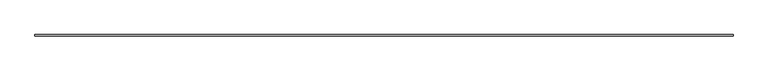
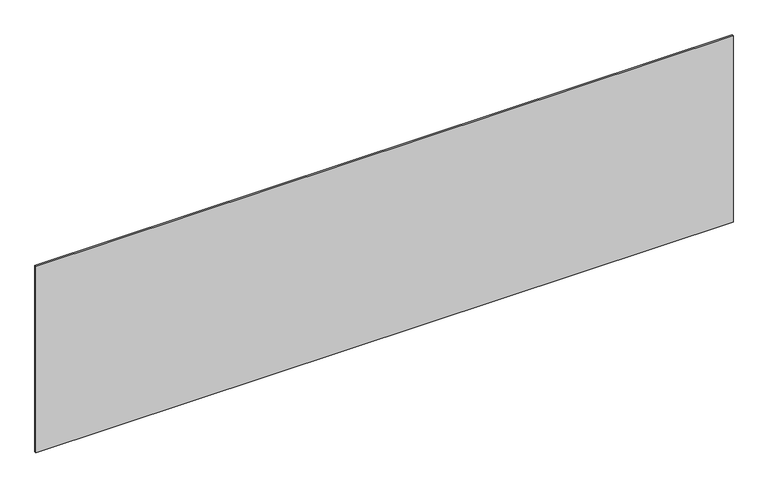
"""IFC4 building model written with IfcOpenShell, lengths in millimetres: plate geometry, システム パネル : 標準."""

from ifc_helpers import new_model, si_unit, origin, origin_with_axes, place, context, project, spatial, polyline, outline, extrude, source, transform, mapped, element, save


def plate_6d09dc41(model_context):
    return source(origin(), model_context, "Body", "SweptSolid", [
        extrude(outline(polyline([(2264.1666667, -5.0), (-2264.1666667, -5.0), (-2264.1666667, 5.0), (2264.1666667, 5.0), (2264.1666667, -5.0)])), origin_with_axes(), (0.0, 0.0, 1.0), 1281.207091),
    ])


if __name__ == "__main__":
    model = new_model("IFC4")
    model_context = context("Model", 3, world=origin())
    ifc_project = project(units=[si_unit("LENGTHUNIT", "METRE", prefix="MILLI")], contexts=[model_context])
    site = spatial("IfcSite", under=ifc_project)
    building = spatial("IfcBuilding", under=site)
    placement = place(None, origin())
    plate_shape = plate_6d09dc41(model_context)
    element("IfcPlate", 1, ObjectType="システム パネル : 標準", at=placement, inside=building, context=model_context, shape_type="MappedRepresentation", body=[
        mapped(plate_shape, transform((0.0, 0.0, 0.0), x_axis=(1.0, 0.0, 0.0), y_axis=(0.0, 1.0, 0.0), z_axis=(0.0, 0.0, 1.0))),
    ])
    save(model, "model.ifc")
